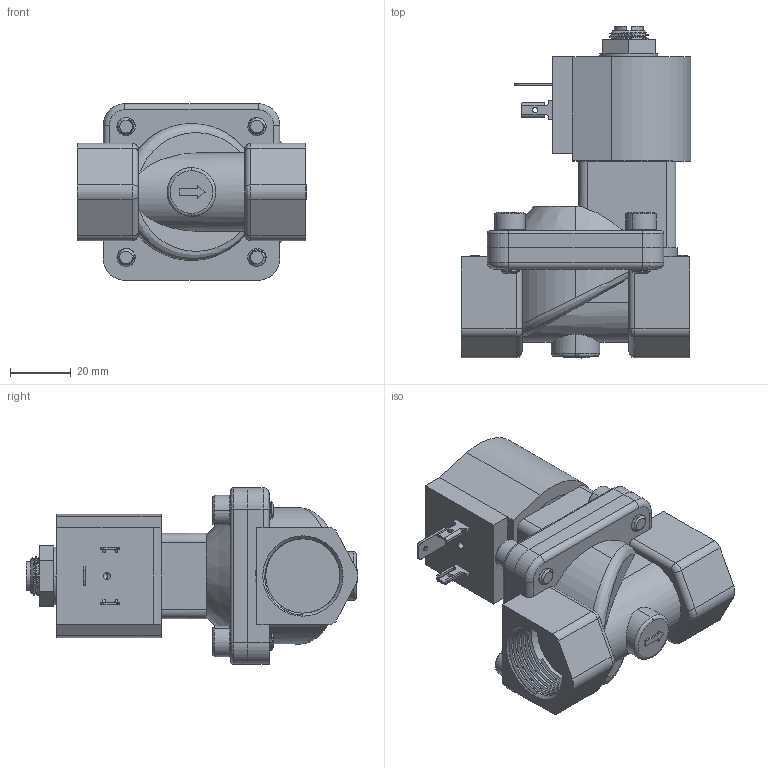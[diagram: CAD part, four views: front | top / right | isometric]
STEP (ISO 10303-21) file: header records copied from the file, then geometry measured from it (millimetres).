
FILE_DESCRIPTION (( 'STEP AP203' ), '1' );
FILE_NAME ('S711Yxxxx9EG5.STEP', '2024-12-23T17:16:11', ( '' ), ( '' ), 'SwSTEP 2.0', 'SolidWorks 2023', '' );
FILE_SCHEMA (( 'CONFIG_CONTROL_DESIGN' ));
Length unit declared in the file: millimetre
Products named in the file (1): S711Yxxxx9EG5
Bounding box: 75.32 x 109.07 x 58 mm (x, y, z)
Volume: 169565.2 mm3; surface area: 33143.5 mm2
Topology: 1 solids, 3 shells, 448 faces, 1116 edges, 701 vertices
Faces by surface type: plane 198, cylinder 142, cone 63, bspline 45
Entity records: 22914 total; most frequent: CARTESIAN_POINT 12826, ORIENTED_EDGE 2228, DIRECTION 1908, EDGE_CURVE 1114, VERTEX_POINT 701, AXIS2_PLACEMENT_3D 659, VECTOR 590, LINE 590
